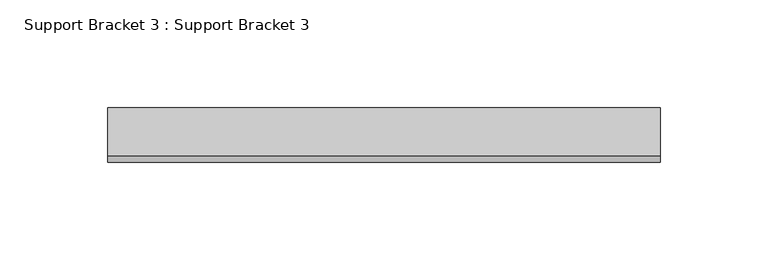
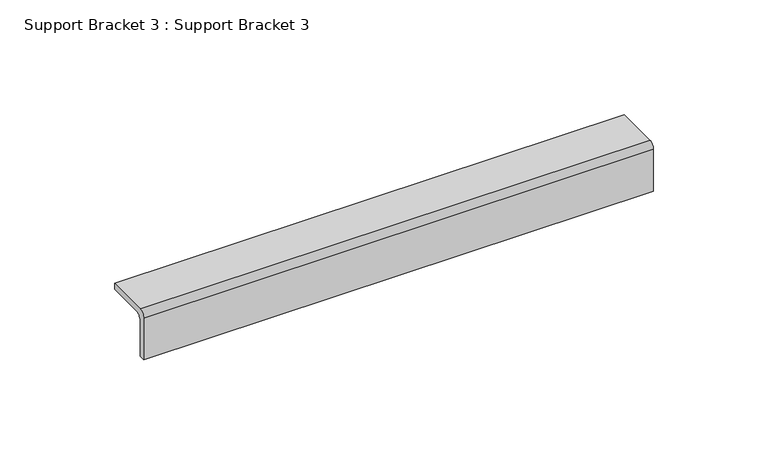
"""IFC4 building model written with IfcOpenShell, lengths in millimetres: proxy geometry, Support Bracket 3 : Support Bracket 3."""

from ifc_helpers import new_model, si_unit, point, frame, frame_2d, origin, place, context, project, spatial, polyline, circle_curve, trimmed, segment, composite_curve, outline, extrude, source, transform, mapped, element, save


def support_bracket_3_support_bracket_3_71282282(model_context):
    return source(origin(), model_context, "Body", "SweptSolid", [
        extrude(outline(composite_curve([segment(polyline([(1072.7906018, 1157.2449176), (1095.1426018, 1157.2449176), (1095.1426018, 1154.0699176), (1075.9656018, 1154.0699176)]), True, "CONTINUOUS"), segment(trimmed(circle_curve(frame_2d((1075.9656018, 1151.0219176)), 3.048), [point((1075.9656018, 1154.0699176))], [point((1072.9176018, 1151.0219176))], True, "CARTESIAN"), True, "CONTINUOUS"), segment(polyline([(1072.9176018, 1151.0219176), (1072.9176018, 1131.8449176), (1069.7426018, 1131.8449176), (1069.7426018, 1154.1969176)]), True, "CONTINUOUS"), segment(trimmed(circle_curve(frame_2d((1072.7906018, 1154.1969176)), 3.048), [point((1069.7426018, 1154.1969176))], [point((1072.7906018, 1157.2449176))], False, "CARTESIAN"), True, "CONTINUOUS")], self_intersect=False)), frame((15646.355609, 0.0, 0.0), z_axis=(1.0, 0.0, 0.0), x_axis=(0.0, 1.0, 0.0)), (0.0, 0.0, 1.0), 256.778125),
    ])


if __name__ == "__main__":
    model = new_model("IFC4")
    model_context = context("Model", 3, world=origin())
    ifc_project = project(units=[si_unit("LENGTHUNIT", "METRE", prefix="MILLI")], contexts=[model_context])
    site = spatial("IfcSite", under=ifc_project)
    building = spatial("IfcBuilding", under=site)
    placement = place(None, origin())
    support_bracket_3_support_bracket_3_shape = support_bracket_3_support_bracket_3_71282282(model_context)
    element("IfcBuildingElementProxy", 1, Name="Support Bracket 3 : Support Bracket 3", ObjectType="Support Bracket 3 : Support Bracket 3", at=placement, inside=building, context=model_context, shape_type="MappedRepresentation", body=[
        mapped(support_bracket_3_support_bracket_3_shape, transform((0.0, 0.0, 0.0), x_axis=(1.0, 0.0, 0.0), y_axis=(0.0, 1.0, 0.0), z_axis=(0.0, 0.0, 1.0))),
    ])
    save(model, "model.ifc")
